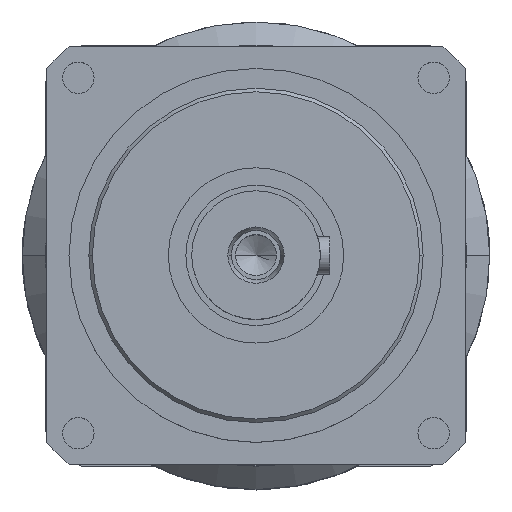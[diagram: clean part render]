
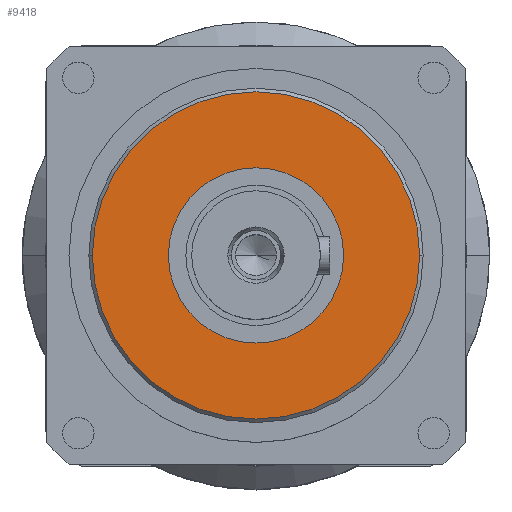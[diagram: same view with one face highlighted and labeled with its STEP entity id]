
A CAD part, top view. The second image highlights one B-rep face of the part: STEP entity #9418.
In plain terms, the highlighted planar face has unit normal (0, 0, 1).
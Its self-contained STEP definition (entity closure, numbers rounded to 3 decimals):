
#33 = VERTEX_POINT ( 'NONE', #5313 ) ;
#443 = VERTEX_POINT ( 'NONE', #36667 ) ;
#3087 = CIRCLE ( 'NONE', #5830, 70. ) ;
#3326 = EDGE_CURVE ( 'NONE', #21195, #443, #3087, .T. ) ;
#3459 = AXIS2_PLACEMENT_3D ( 'NONE', #8964, #30266, #12019 ) ;
#4015 = CARTESIAN_POINT ( 'NONE',  ( 0., 70., 0. ) ) ;
#4911 = CARTESIAN_POINT ( 'NONE',  ( 0., 0., 0. ) ) ;
#5313 = CARTESIAN_POINT ( 'NONE',  ( -37.5, 0., 0. ) ) ;
#5830 = AXIS2_PLACEMENT_3D ( 'NONE', #23887, #23974, #23327 ) ;
#6767 = ORIENTED_EDGE ( 'NONE', *, *, #24841, .F. ) ;
#8040 = DIRECTION ( 'NONE',  ( 1., 0., 0. ) ) ;
#8964 = CARTESIAN_POINT ( 'NONE',  ( 0., 0., 0. ) ) ;
#9418 = ADVANCED_FACE ( 'NONE', ( #24505, #15340 ), #10382, .F. ) ;
#9708 = CIRCLE ( 'NONE', #18065, 37.5 ) ;
#9771 = CIRCLE ( 'NONE', #38104, 37.5 ) ;
#10382 = PLANE ( 'NONE',  #23669 ) ;
#12019 = DIRECTION ( 'NONE',  ( -1., 0., 0. ) ) ;
#12842 = EDGE_CURVE ( 'NONE', #33, #35356, #9708, .T. ) ;
#12976 = ORIENTED_EDGE ( 'NONE', *, *, #35997, .F. ) ;
#13377 = CARTESIAN_POINT ( 'NONE',  ( 37.5, 0., 0. ) ) ;
#13853 = CARTESIAN_POINT ( 'NONE',  ( -70., 0., 0. ) ) ;
#14637 = CARTESIAN_POINT ( 'NONE',  ( 0., 0., 0. ) ) ;
#15340 = FACE_OUTER_BOUND ( 'NONE', #24013, .T. ) ;
#16531 = DIRECTION ( 'NONE',  ( 0., 0., -1. ) ) ;
#17737 = DIRECTION ( 'NONE',  ( 1., 0., 0. ) ) ;
#18065 = AXIS2_PLACEMENT_3D ( 'NONE', #4911, #26402, #8040 ) ;
#19275 = ORIENTED_EDGE ( 'NONE', *, *, #3326, .F. ) ;
#21195 = VERTEX_POINT ( 'NONE', #13853 ) ;
#23327 = DIRECTION ( 'NONE',  ( -1., 0., 0. ) ) ;
#23669 = AXIS2_PLACEMENT_3D ( 'NONE', #4015, #16531, #37524 ) ;
#23887 = CARTESIAN_POINT ( 'NONE',  ( 0., 0., 0. ) ) ;
#23974 = DIRECTION ( 'NONE',  ( 0., 0., -1. ) ) ;
#24013 = EDGE_LOOP ( 'NONE', ( #19275, #6767 ) ) ;
#24505 = FACE_BOUND ( 'NONE', #30097, .T. ) ;
#24841 = EDGE_CURVE ( 'NONE', #443, #21195, #31092, .T. ) ;
#26402 = DIRECTION ( 'NONE',  ( 0., 0., 1. ) ) ;
#30097 = EDGE_LOOP ( 'NONE', ( #12976, #35909 ) ) ;
#30266 = DIRECTION ( 'NONE',  ( 0., 0., -1. ) ) ;
#31092 = CIRCLE ( 'NONE', #3459, 70. ) ;
#35356 = VERTEX_POINT ( 'NONE', #13377 ) ;
#35717 = DIRECTION ( 'NONE',  ( 0., 0., 1. ) ) ;
#35909 = ORIENTED_EDGE ( 'NONE', *, *, #12842, .F. ) ;
#35997 = EDGE_CURVE ( 'NONE', #35356, #33, #9771, .T. ) ;
#36667 = CARTESIAN_POINT ( 'NONE',  ( 70., 0., 0. ) ) ;
#37524 = DIRECTION ( 'NONE',  ( -1., 0., 0. ) ) ;
#38104 = AXIS2_PLACEMENT_3D ( 'NONE', #14637, #35717, #17737 ) ;
